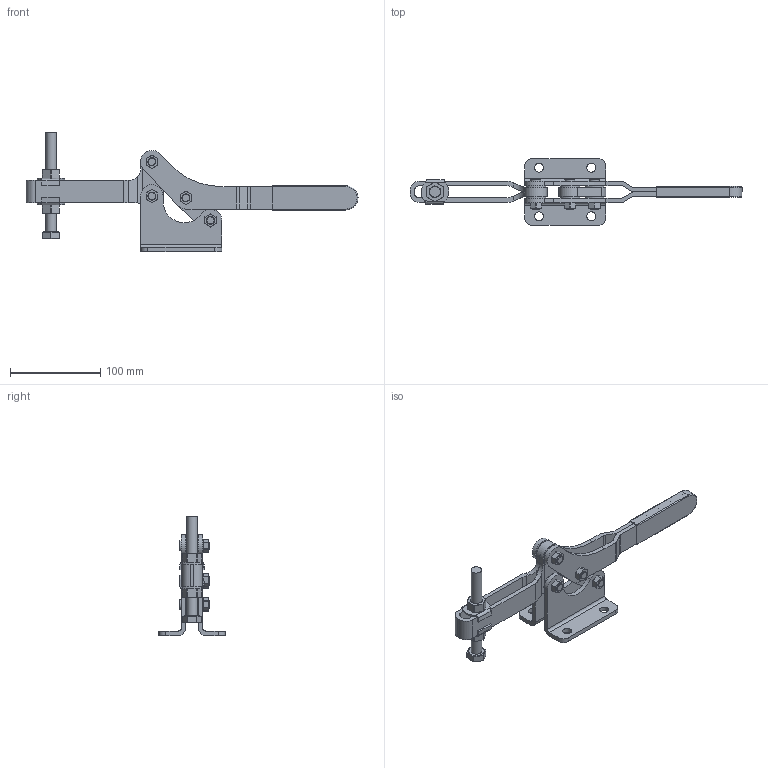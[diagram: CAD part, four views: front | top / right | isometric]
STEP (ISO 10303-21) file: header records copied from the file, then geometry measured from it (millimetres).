
FILE_DESCRIPTION(/* description */ (''),/* implementation_level */ '2;1');
FILE_NAME(/* name */ '\\NAS\db20\065-22F\DR_065-22F.stp',/* time_stamp */ '2018-03-02T15:25:53+09:00',/* author */ ('user'),/* organization */ (''),/* preprocessor_version */ 'ST-DEVELOPER v15.6',/* originating_system */ 'Autodesk Inventor 2015',/* authorisation */ '');
FILE_SCHEMA (('AUTOMOTIVE_DESIGN { 1 0 10303 214 3 1 1 }'));
Length unit declared in the file: millimetre
Products named in the file (10): DR_065-22F-B; DR_065-22F-BR; DR_065-22F-C; DR_065-22F-H; DR_M12 BOLT; DR_NUT-M12; DR_TCB12-W; DR_TCB12; DR_NUT-M8; DR_065-22F
Bounding box: 368 x 74 x 132 mm (x, y, z)
Volume: 227516.1 mm3; surface area: 119950.4 mm2
Topology: 17 solids, 17 shells, 499 faces, 1148 edges, 704 vertices
Faces by surface type: cylinder 220, plane 179, torus 74, bspline 14, cone 12
Full cylindrical faces by diameter (mm): 8 x22, 10 x4, 11 x4, 12 x3, 13 x2, 17.5 x1, 22 x8
Entity records: 9733 total; most frequent: CARTESIAN_POINT 2330, DIRECTION 1602, ORIENTED_EDGE 1344, EDGE_CURVE 672, AXIS2_PLACEMENT_3D 628, VERTEX_POINT 452, EDGE_LOOP 406, LINE 346
